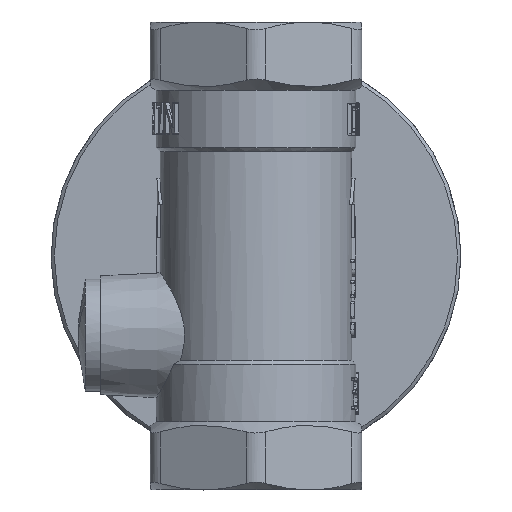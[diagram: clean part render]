
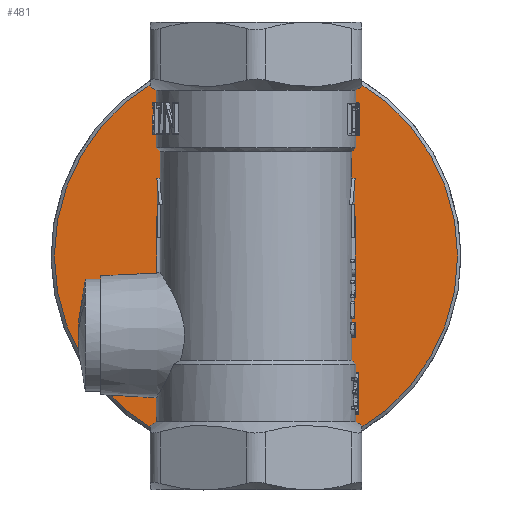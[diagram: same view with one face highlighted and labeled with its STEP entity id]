
A CAD part, front view. The second image highlights one B-rep face of the part: STEP entity #481.
In plain terms, the highlighted planar face has unit normal (0, -1, 0).
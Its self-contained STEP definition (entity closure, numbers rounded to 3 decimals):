
#481=ADVANCED_FACE('',(#3448,#3450),#3452,.F.);
#3448=FACE_BOUND('',#3449,.T.);
#3449=EDGE_LOOP('',(#7204));
#3450=FACE_BOUND('',#3451,.T.);
#3451=EDGE_LOOP('',(#7205,#7206,#7207,#7208,#7209,#7210,#7211,#7212,#7213,#7214,
#7215,#7216));
#3452=PLANE('',#3453);
#3453=AXIS2_PLACEMENT_3D('',#3454,#3455,#3456);
#3454=CARTESIAN_POINT('',(0.,57.,0.));
#3455=DIRECTION('',(0.,1.,0.));
#3456=DIRECTION('',(0.,0.,1.));
#7204=ORIENTED_EDGE('',*,*,#8890,.F.);
#7205=ORIENTED_EDGE('',*,*,#8837,.T.);
#7206=ORIENTED_EDGE('',*,*,#8835,.T.);
#7207=ORIENTED_EDGE('',*,*,#8833,.T.);
#7208=ORIENTED_EDGE('',*,*,#8831,.T.);
#7209=ORIENTED_EDGE('',*,*,#8829,.T.);
#7210=ORIENTED_EDGE('',*,*,#8827,.T.);
#7211=ORIENTED_EDGE('',*,*,#8849,.T.);
#7212=ORIENTED_EDGE('',*,*,#8847,.T.);
#7213=ORIENTED_EDGE('',*,*,#8845,.T.);
#7214=ORIENTED_EDGE('',*,*,#8843,.T.);
#7215=ORIENTED_EDGE('',*,*,#8841,.T.);
#7216=ORIENTED_EDGE('',*,*,#8839,.T.);
#8827=EDGE_CURVE('',#11046,#11044,#11047,.F.);
#8829=EDGE_CURVE('',#11049,#11046,#11050,.F.);
#8831=EDGE_CURVE('',#11052,#11049,#11053,.F.);
#8833=EDGE_CURVE('',#11055,#11052,#11056,.F.);
#8835=EDGE_CURVE('',#11058,#11055,#11059,.F.);
#8837=EDGE_CURVE('',#11061,#11058,#11062,.F.);
#8839=EDGE_CURVE('',#11064,#11061,#11065,.F.);
#8841=EDGE_CURVE('',#11067,#11064,#11068,.F.);
#8843=EDGE_CURVE('',#11070,#11067,#11071,.F.);
#8845=EDGE_CURVE('',#11073,#11070,#11074,.F.);
#8847=EDGE_CURVE('',#11076,#11073,#11077,.F.);
#8849=EDGE_CURVE('',#11044,#11076,#11079,.F.);
#8890=EDGE_CURVE('',#11139,#11139,#11140,.T.);
#11044=VERTEX_POINT('',#26147);
#11046=VERTEX_POINT('',#26152);
#11047=CIRCLE('',#26153,5.);
#11049=VERTEX_POINT('',#26161);
#11050=LINE('',#26162,#26163);
#11052=VERTEX_POINT('',#26169);
#11053=CIRCLE('',#26170,5.);
#11055=VERTEX_POINT('',#26178);
#11056=LINE('',#26179,#26180);
#11058=VERTEX_POINT('',#26186);
#11059=CIRCLE('',#26187,5.);
#11061=VERTEX_POINT('',#26195);
#11062=LINE('',#26196,#26197);
#11064=VERTEX_POINT('',#26203);
#11065=CIRCLE('',#26204,5.);
#11067=VERTEX_POINT('',#26212);
#11068=LINE('',#26213,#26214);
#11070=VERTEX_POINT('',#26220);
#11071=CIRCLE('',#26221,5.);
#11073=VERTEX_POINT('',#26229);
#11074=LINE('',#26230,#26231);
#11076=VERTEX_POINT('',#26237);
#11077=CIRCLE('',#26238,5.);
#11079=LINE('',#26246,#26247);
#11139=VERTEX_POINT('',#26590);
#11140=CIRCLE('',#26591,30.5);
#26147=CARTESIAN_POINT('',(2.5,57.,15.877));
#26152=CARTESIAN_POINT('',(-2.5,57.,15.877));
#26153=AXIS2_PLACEMENT_3D('',#26154,#26155,#26156);
#26154=CARTESIAN_POINT('',(0.,57.,11.547));
#26155=DIRECTION('',(0.,-1.,0.));
#26156=DIRECTION('',(0.5,0.,0.866));
#26161=CARTESIAN_POINT('',(-12.5,57.,10.104));
#26162=CARTESIAN_POINT('',(-2.5,57.,15.877));
#26163=VECTOR('',#26164,1.);
#26164=DIRECTION('',(-0.866,0.,-0.5));
#26169=CARTESIAN_POINT('',(-15.,57.,5.774));
#26170=AXIS2_PLACEMENT_3D('',#26171,#26172,#26173);
#26171=CARTESIAN_POINT('',(-10.,57.,5.774));
#26172=DIRECTION('',(0.,-1.,0.));
#26173=DIRECTION('',(-0.5,0.,0.866));
#26178=CARTESIAN_POINT('',(-15.,57.,-5.774));
#26179=CARTESIAN_POINT('',(-15.,57.,5.774));
#26180=VECTOR('',#26181,1.);
#26181=DIRECTION('',(0.,0.,-1.));
#26186=CARTESIAN_POINT('',(-12.5,57.,-10.104));
#26187=AXIS2_PLACEMENT_3D('',#26188,#26189,#26190);
#26188=CARTESIAN_POINT('',(-10.,57.,-5.774));
#26189=DIRECTION('',(0.,-1.,0.));
#26190=DIRECTION('',(-1.,0.,0.));
#26195=CARTESIAN_POINT('',(-2.5,57.,-15.877));
#26196=CARTESIAN_POINT('',(-12.5,57.,-10.104));
#26197=VECTOR('',#26198,1.);
#26198=DIRECTION('',(0.866,0.,-0.5));
#26203=CARTESIAN_POINT('',(2.5,57.,-15.877));
#26204=AXIS2_PLACEMENT_3D('',#26205,#26206,#26207);
#26205=CARTESIAN_POINT('',(0.,57.,-11.547));
#26206=DIRECTION('',(0.,-1.,0.));
#26207=DIRECTION('',(-0.5,0.,-0.866));
#26212=CARTESIAN_POINT('',(12.5,57.,-10.104));
#26213=CARTESIAN_POINT('',(2.5,57.,-15.877));
#26214=VECTOR('',#26215,1.);
#26215=DIRECTION('',(0.866,0.,0.5));
#26220=CARTESIAN_POINT('',(15.,57.,-5.774));
#26221=AXIS2_PLACEMENT_3D('',#26222,#26223,#26224);
#26222=CARTESIAN_POINT('',(10.,57.,-5.774));
#26223=DIRECTION('',(0.,-1.,0.));
#26224=DIRECTION('',(0.5,0.,-0.866));
#26229=CARTESIAN_POINT('',(15.,57.,5.774));
#26230=CARTESIAN_POINT('',(15.,57.,-5.774));
#26231=VECTOR('',#26232,1.);
#26232=DIRECTION('',(0.,0.,1.));
#26237=CARTESIAN_POINT('',(12.5,57.,10.104));
#26238=AXIS2_PLACEMENT_3D('',#26239,#26240,#26241);
#26239=CARTESIAN_POINT('',(10.,57.,5.774));
#26240=DIRECTION('',(0.,-1.,0.));
#26241=DIRECTION('',(1.,0.,0.));
#26246=CARTESIAN_POINT('',(12.5,57.,10.104));
#26247=VECTOR('',#26248,1.);
#26248=DIRECTION('',(-0.866,0.,0.5));
#26590=CARTESIAN_POINT('',(0.,57.,30.5));
#26591=AXIS2_PLACEMENT_3D('',#26592,#26593,#26594);
#26592=CARTESIAN_POINT('',(0.,57.,0.));
#26593=DIRECTION('',(0.,1.,0.));
#26594=DIRECTION('',(0.,0.,1.));
